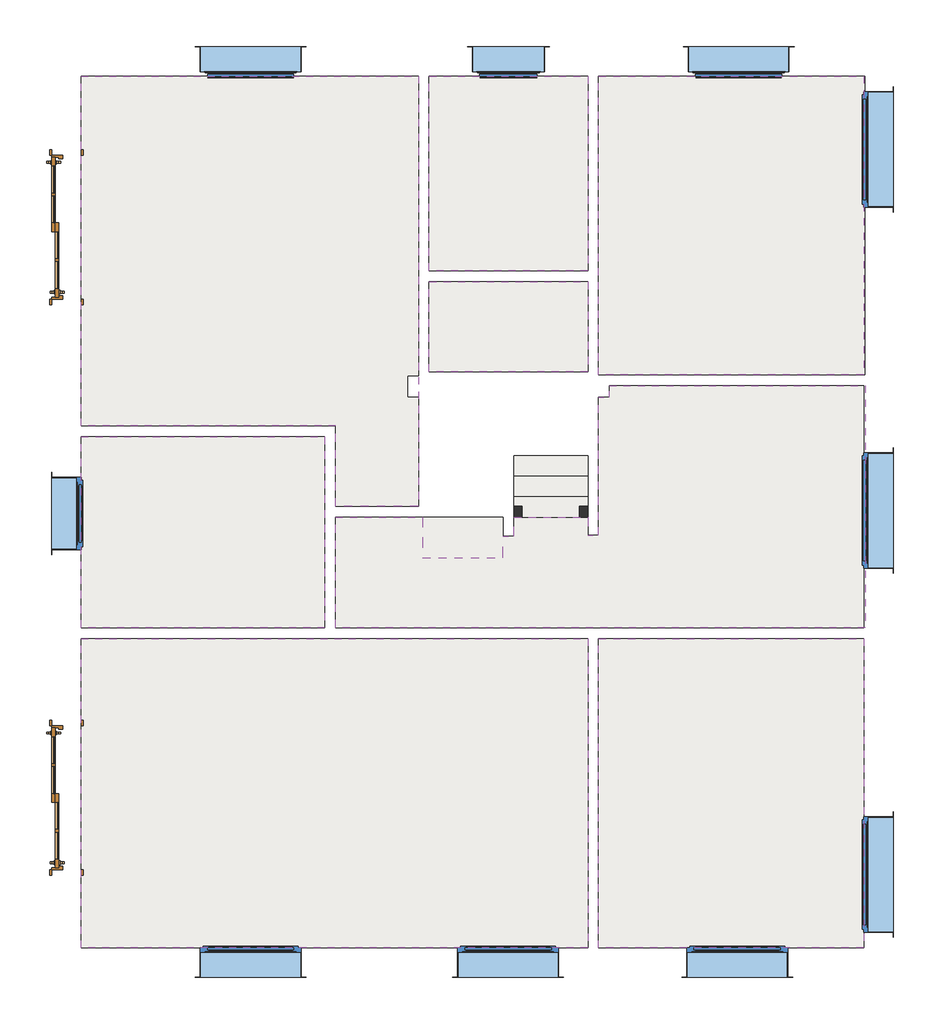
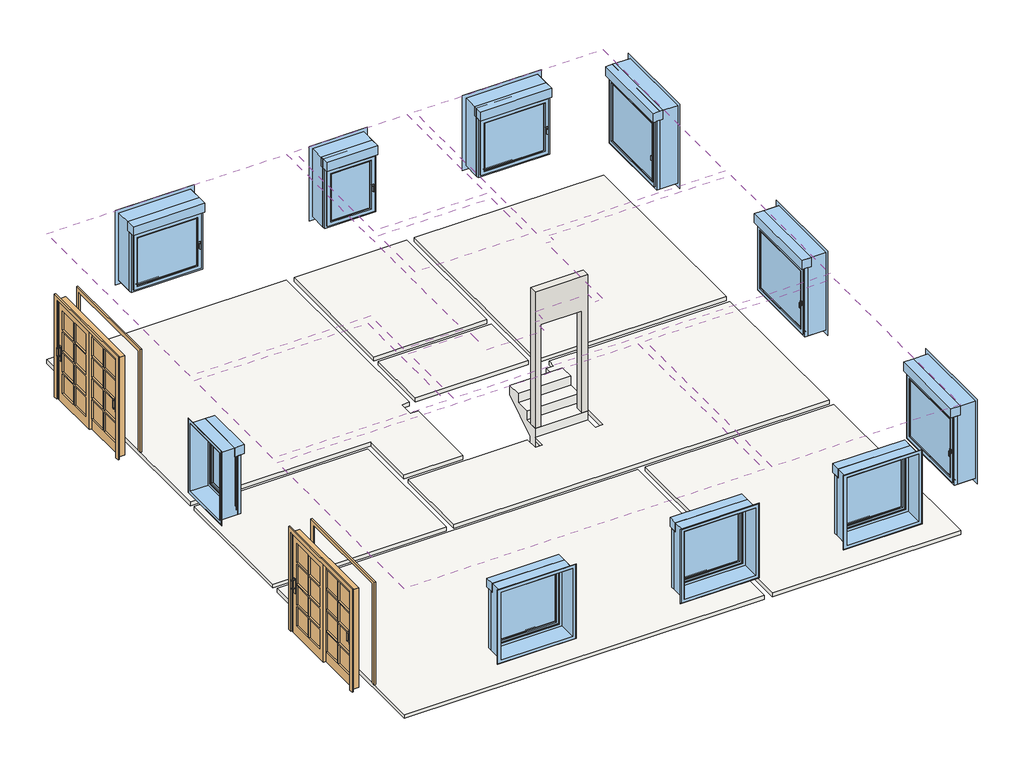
# One storey, incomplete: 10 windows, 8 coverings, 3 slabs, 2 doors, 1 wall.
"""IFC4 building model written with IfcOpenShell, lengths in millimetres."""

from ifc_helpers import new_model, si_unit, frame, origin, place, context, project, spatial, polyline, outline, extrude, transform, mapped, element, save
from components import door_a9439ebe, tramo_escalera_3_tramo_escalera_3_9797402d, ventana_1_hoja_ve1_100_x_140_cm_ea734483, ventana_1_hoja_ve1_140_x_140_cm_f22eddc7, ventana_1_hoja_ve1_160_x_160_cm_969c779d

model = new_model("IFC4")

# Units and contexts
model_context = context("Model", 3, world=origin())
ifc_project = project(units=[si_unit("LENGTHUNIT", "METRE", prefix="MILLI")], contexts=[model_context])

# Site, building, storey
site = spatial("IfcSite", under=ifc_project)
building = spatial("IfcBuilding", under=site)
storey = spatial("IfcBuildingStorey", under=building, Name="02.AR.PLANTA PRIMERA ACAB. SUELO", Elevation=3530.0)

# Coverings
placement = place(None, origin())
element("IfcCovering", 1, ObjectType="Falso techo continuo de placa de yeso laminado", at=placement, inside=storey, context=model_context, shape_type="SweptSolid", body=[
    extrude(outline(polyline([(4385.0, 8055.0610844), (4385.0, 12906.5177396), (9065.0, 12906.5177396), (9065.0, 6940.0), (7915.0, 6940.0), (7915.0, 8055.0610844), (4385.0, 8055.0610844)])), frame((0.0, 0.0, 6130.0), z_axis=(0.0, 0.0, 1.0), x_axis=(1.0, 0.0, 0.0)), (0.0, 0.0, 1.0), 60.0),
])
element("IfcCovering", 2, ObjectType="Falso techo continuo de placa de yeso laminado", at=placement, inside=storey, context=model_context, shape_type="SweptSolid", body=[
    extrude(outline(polyline([(9215.0, 10205.0), (9215.0, 12906.5177396), (11415.0, 12906.5177396), (11415.0, 10205.0), (9215.0, 10205.0)])), frame((0.0, 0.0, 6130.0), z_axis=(0.0, 0.0, 1.0), x_axis=(1.0, 0.0, 0.0)), (0.0, 0.0, 1.0), 60.0),
])
element("IfcCovering", 3, ObjectType="Falso techo continuo de placa de yeso laminado", at=placement, inside=storey, context=model_context, shape_type="SweptSolid", body=[
    extrude(outline(polyline([(11415.0, 8805.0), (9215.0, 8805.0), (9215.0, 10055.0), (11415.0, 10055.0), (11415.0, 8805.0)])), frame((0.0, 0.0, 6130.0), z_axis=(0.0, 0.0, 1.0), x_axis=(1.0, 0.0, 0.0)), (0.0, 0.0, 1.0), 60.0),
])
element("IfcCovering", 4, ObjectType="Falso techo continuo de placa de yeso laminado", at=placement, inside=storey, context=model_context, shape_type="SweptSolid", body=[
    extrude(outline(polyline([(15245.0, 815.0), (11565.0, 815.0), (11565.0, 5105.0610844), (15245.0, 5105.0610844), (15245.0, 815.0)])), frame((0.0, 0.0, 6130.0), z_axis=(0.0, 0.0, 1.0), x_axis=(1.0, 0.0, 0.0)), (0.0, 0.0, 1.0), 60.0),
])
element("IfcCovering", 5, ObjectType="Falso techo continuo de placa de yeso laminado", at=placement, inside=storey, context=model_context, shape_type="SweptSolid", body=[
    extrude(outline(polyline([(11415.0, 815.0), (4385.0, 815.0), (4385.0, 5105.0610844), (11415.0, 5105.0610844), (11415.0, 815.0)])), frame((0.0, 0.0, 6130.0), z_axis=(0.0, 0.0, 1.0), x_axis=(1.0, 0.0, 0.0)), (0.0, 0.0, 1.0), 60.0),
])
element("IfcCovering", 6, ObjectType="Falso techo continuo de placa de yeso laminado", at=placement, inside=storey, context=model_context, shape_type="SweptSolid", body=[
    extrude(outline(polyline([(4385.0, 5255.0610844), (4385.0, 7905.0610844), (7765.0, 7905.0610844), (7765.0, 5255.0610844), (4385.0, 5255.0610844)])), frame((0.0, 0.0, 6130.0), z_axis=(0.0, 0.0, 1.0), x_axis=(1.0, 0.0, 0.0)), (0.0, 0.0, 1.0), 60.0),
])
element("IfcCovering", 7, ObjectType="Falso techo continuo de placa de yeso laminado", at=placement, inside=storey, context=model_context, shape_type="SweptSolid", body=[
    extrude(outline(polyline([(9120.0, 6225.0), (10240.0, 6225.0), (10240.0, 6525.0), (10390.0, 6525.0), (10390.0, 6789.1335364), (11415.0, 6789.1346758), (11415.0, 6540.0), (11565.0, 6540.0), (11565.0, 8450.0), (11715.0, 8450.0), (11715.0, 8615.0), (15265.0, 8615.0), (15265.0, 5255.0610844), (7915.0, 5255.0610844), (7915.0, 6790.0), (9120.0, 6789.8705263), (9120.0, 6225.0)])), frame((0.0, 0.0, 6130.0), z_axis=(0.0, 0.0, 1.0), x_axis=(1.0, 0.0, 0.0)), (0.0, 0.0, 1.0), 60.0),
])
element("IfcCovering", 8, ObjectType="Falso techo continuo de placa de yeso laminado", at=placement, inside=storey, context=model_context, shape_type="SweptSolid", body=[
    extrude(outline(polyline([(15245.0, 12906.5177396), (15245.0, 8765.0), (11565.0, 8765.0), (11565.0, 12906.5177396), (15245.0, 12906.5177396)])), frame((0.0, 0.0, 6130.0), z_axis=(0.0, 0.0, 1.0), x_axis=(1.0, 0.0, 0.0)), (0.0, 0.0, 1.0), 60.0),
])

# Doors
door_shape = door_a9439ebe(model_context)
element("IfcDoor", 9, ObjectType="Puerta Balcón - 2 hojas corredizas : 200 x 205 cm - 8 Vidrios repartidos", at=placement, inside=storey, context=model_context, shape_type="MappedRepresentation", body=[
    mapped(door_shape, transform((4180.0, 2895.0305422, 3530.0), x_axis=(0.0, -1.0, 0.0), y_axis=(1.0, 0.0, 0.0), z_axis=(0.0, 0.0, 1.0))),
])
element("IfcDoor", 10, ObjectType="Puerta Balcón - 2 hojas corredizas : 200 x 205 cm - 8 Vidrios repartidos", at=placement, inside=storey, context=model_context, shape_type="MappedRepresentation", body=[
    mapped(door_shape, transform((4180.0, 10811.5177396, 3530.0), x_axis=(0.0, -1.0, 0.0), y_axis=(1.0, 0.0, 0.0), z_axis=(0.0, 0.0, 1.0))),
])

# Slabs
element("IfcSlab", 11, ObjectType="Acabado de suelo gres", at=placement, inside=storey, context=model_context, shape_type="SweptSolid", body=[
    extrude(outline(polyline([(7765.0, 7905.0610844), (7765.0, 5255.0610844), (4385.0, 5255.0610844), (4385.0, 7905.0610844), (7765.0, 7905.0610844)])), frame((0.0, 0.0, 3450.0), z_axis=(0.0, 0.0, 1.0), x_axis=(1.0, 0.0, 0.0)), (0.0, 0.0, 1.0), 80.0),
    extrude(outline(polyline([(11415.0, 12906.5177396), (11415.0, 10205.0), (9215.0, 10205.0), (9215.0, 12906.5177396), (11415.0, 12906.5177396)])), frame((0.0, 0.0, 3450.0), z_axis=(0.0, 0.0, 1.0), x_axis=(1.0, 0.0, 0.0)), (0.0, 0.0, 1.0), 80.0),
])
element("IfcSlab", 12, ObjectType="Acabado de suelo parquet", at=placement, inside=storey, context=model_context, shape_type="SweptSolid", body=[
    extrude(outline(polyline([(9065.0, 12906.5177396), (9065.0, 8750.0), (8915.0, 8750.0), (8915.0, 8450.0), (9065.0, 8450.0), (9065.0, 6940.0), (7915.0, 6940.0), (7915.0, 8055.2818423), (4385.0, 8055.2818423), (4385.0, 12906.5177396), (9065.0, 12906.5177396)])), frame((0.0, 0.0, 3450.0), z_axis=(0.0, 0.0, 1.0), x_axis=(1.0, 0.0, 0.0)), (0.0, 0.0, 1.0), 80.0),
    extrude(outline(polyline([(11415.0, 10055.0), (11415.0, 8805.0), (9215.0, 8805.0), (9215.0, 10055.0), (11415.0, 10055.0)])), frame((0.0, 0.0, 3450.0), z_axis=(0.0, 0.0, 1.0), x_axis=(1.0, 0.0, 0.0)), (0.0, 0.0, 1.0), 80.0),
    extrude(outline(polyline([(15260.0, 12906.5177396), (15260.0, 8765.0), (11565.0, 8765.0), (11565.0, 12906.5177396), (15260.0, 12906.5177396)])), frame((0.0, 0.0, 3450.0), z_axis=(0.0, 0.0, 1.0), x_axis=(1.0, 0.0, 0.0)), (0.0, 0.0, 1.0), 80.0),
    extrude(outline(polyline([(15245.0, 8615.0), (15245.0, 5255.0610844), (7915.0, 5255.0610844), (7915.0, 6790.6845799), (10240.0, 6789.7501856), (10240.0, 6525.0), (10390.0, 6525.0), (10390.0, 6789.1335364), (11415.0, 6790.0), (11415.0, 6540.0), (11565.0, 6540.0), (11565.0, 8450.0), (11715.0, 8450.0), (11715.0, 8615.0), (15245.0, 8615.0)])), frame((0.0, 0.0, 3450.0), z_axis=(0.0, 0.0, 1.0), x_axis=(1.0, 0.0, 0.0)), (0.0, 0.0, 1.0), 80.0),
    extrude(outline(polyline([(11415.0, 5105.0610844), (11415.0, 815.0), (4385.0, 815.0), (4385.0, 5105.0610844), (11415.0, 5105.0610844)])), frame((0.0, 0.0, 3450.0), z_axis=(0.0, 0.0, 1.0), x_axis=(1.0, 0.0, 0.0)), (0.0, 0.0, 1.0), 80.0),
    extrude(outline(polyline([(15245.0, 815.0), (11565.0, 815.0), (11565.0, 5105.0610844), (15245.0, 5105.0610844), (15245.0, 815.0)])), frame((0.0, 0.0, 3450.0), z_axis=(0.0, 0.0, 1.0), x_axis=(1.0, 0.0, 0.0)), (0.0, 0.0, 1.0), 80.0),
])
tramo_escalera_3_tramo_escalera_3_shape = tramo_escalera_3_tramo_escalera_3_9797402d(model_context)
element("IfcSlab", 13, ObjectType="tramo escalera 3 : tramo escalera 3", at=placement, inside=storey, context=model_context, shape_type="MappedRepresentation", body=[
    mapped(tramo_escalera_3_tramo_escalera_3_shape, transform((0.0, 0.0, 0.0), x_axis=(1.0, 0.0, 0.0), y_axis=(0.0, 1.0, 0.0), z_axis=(0.0, 0.0, 1.0))),
])

# Wall
element("IfcWall", 14, ObjectType="Por defecto - 15 cm", at=placement, inside=storey, context=model_context, shape_type="SweptSolid", body=[
    extrude(outline(polyline([(6530.0, 11415.0), (6530.0, 10390.0), (3715.0, 10390.0), (3715.0, 10502.5), (5815.0014808, 10502.5), (5815.0014808, 11302.5), (3715.0, 11302.5), (3715.0, 11415.0), (6530.0, 11415.0)])), frame((0.0, 6790.0, 0.0), z_axis=(0.0, 1.0, 0.0), x_axis=(0.0, 0.0, 1.0)), (0.0, 0.0, 1.0), 150.0),
])

# Windows
ventana_1_hoja_ve1_100_x_140_cm_shape = ventana_1_hoja_ve1_100_x_140_cm_ea734483(model_context)
element("IfcWindow", 15, ObjectType="Ventana 1 hoja : VE1_100 x 140 cm", at=placement, inside=storey, context=model_context, shape_type="MappedRepresentation", body=[
    mapped(ventana_1_hoja_ve1_100_x_140_cm_shape, transform((4180.0, 6840.0610844, 3530.0), x_axis=(0.0, 1.0, 0.0), y_axis=(-1.0, 0.0, 0.0), z_axis=(0.0, 0.0, 1.0))),
])
element("IfcWindow", 16, ObjectType="Ventana 1 hoja : VE1_100 x 140 cm", at=placement, inside=storey, context=model_context, shape_type="MappedRepresentation", body=[
    mapped(ventana_1_hoja_ve1_100_x_140_cm_shape, transform((10315.0, 13111.5177396, 3530.0), x_axis=(1.0, 0.0, 0.0), y_axis=(0.0, 1.0, 0.0), z_axis=(0.0, 0.0, 1.0))),
])
ventana_1_hoja_ve1_140_x_140_cm_shape = ventana_1_hoja_ve1_140_x_140_cm_f22eddc7(model_context)
element("IfcWindow", 17, ObjectType="Ventana 1 hoja : VE1_140 x 140 cm", at=placement, inside=storey, context=model_context, shape_type="MappedRepresentation", body=[
    mapped(ventana_1_hoja_ve1_140_x_140_cm_shape, transform((6735.0, 610.0, 3530.0), x_axis=(-1.0, 0.0, 0.0), y_axis=(0.0, -1.0, 0.0), z_axis=(0.0, 0.0, 1.0))),
])
element("IfcWindow", 18, ObjectType="Ventana 1 hoja : VE1_140 x 140 cm", at=placement, inside=storey, context=model_context, shape_type="MappedRepresentation", body=[
    mapped(ventana_1_hoja_ve1_140_x_140_cm_shape, transform((13490.0, 610.0, 3530.0), x_axis=(-1.0, 0.0, 0.0), y_axis=(0.0, -1.0, 0.0), z_axis=(0.0, 0.0, 1.0))),
])
element("IfcWindow", 19, ObjectType="Ventana 1 hoja : VE1_140 x 140 cm", at=placement, inside=storey, context=model_context, shape_type="MappedRepresentation", body=[
    mapped(ventana_1_hoja_ve1_140_x_140_cm_shape, transform((6735.0, 13111.5177396, 3530.0), x_axis=(1.0, 0.0, 0.0), y_axis=(0.0, 1.0, 0.0), z_axis=(0.0, 0.0, 1.0))),
])
element("IfcWindow", 20, ObjectType="Ventana 1 hoja : VE1_140 x 140 cm", at=placement, inside=storey, context=model_context, shape_type="MappedRepresentation", body=[
    mapped(ventana_1_hoja_ve1_140_x_140_cm_shape, transform((13510.0, 13111.5177396, 3530.0), x_axis=(1.0, 0.0, 0.0), y_axis=(0.0, 1.0, 0.0), z_axis=(0.0, 0.0, 1.0))),
])
element("IfcWindow", 21, ObjectType="Ventana 1 hoja : VE1_140 x 140 cm", at=placement, inside=storey, context=model_context, shape_type="MappedRepresentation", body=[
    mapped(ventana_1_hoja_ve1_140_x_140_cm_shape, transform((10310.0, 610.0, 3530.0), x_axis=(-1.0, 0.0, 0.0), y_axis=(0.0, -1.0, 0.0), z_axis=(0.0, 0.0, 1.0))),
])
ventana_1_hoja_ve1_160_x_160_cm_shape = ventana_1_hoja_ve1_160_x_160_cm_969c779d(model_context)
element("IfcWindow", 22, ObjectType="Ventana 1 hoja : VE1_160 x 160 cm", at=placement, inside=storey, context=model_context, shape_type="MappedRepresentation", body=[
    mapped(ventana_1_hoja_ve1_160_x_160_cm_shape, transform((15450.0, 1830.0, 3530.0), x_axis=(0.0, -1.0, 0.0), y_axis=(1.0, 0.0, 0.0), z_axis=(0.0, 0.0, 1.0))),
])
element("IfcWindow", 23, ObjectType="Ventana 1 hoja : VE1_160 x 160 cm", at=placement, inside=storey, context=model_context, shape_type="MappedRepresentation", body=[
    mapped(ventana_1_hoja_ve1_160_x_160_cm_shape, transform((15450.0, 11891.5177396, 3530.0), x_axis=(0.0, -1.0, 0.0), y_axis=(1.0, 0.0, 0.0), z_axis=(0.0, 0.0, 1.0))),
])
element("IfcWindow", 24, ObjectType="Ventana 1 hoja : VE1_160 x 160 cm", at=placement, inside=storey, context=model_context, shape_type="MappedRepresentation", body=[
    mapped(ventana_1_hoja_ve1_160_x_160_cm_shape, transform((15450.0, 6880.0610844, 3530.0), x_axis=(0.0, -1.0, 0.0), y_axis=(1.0, 0.0, 0.0), z_axis=(0.0, 0.0, 1.0))),
])

save(model, "model.ifc")
